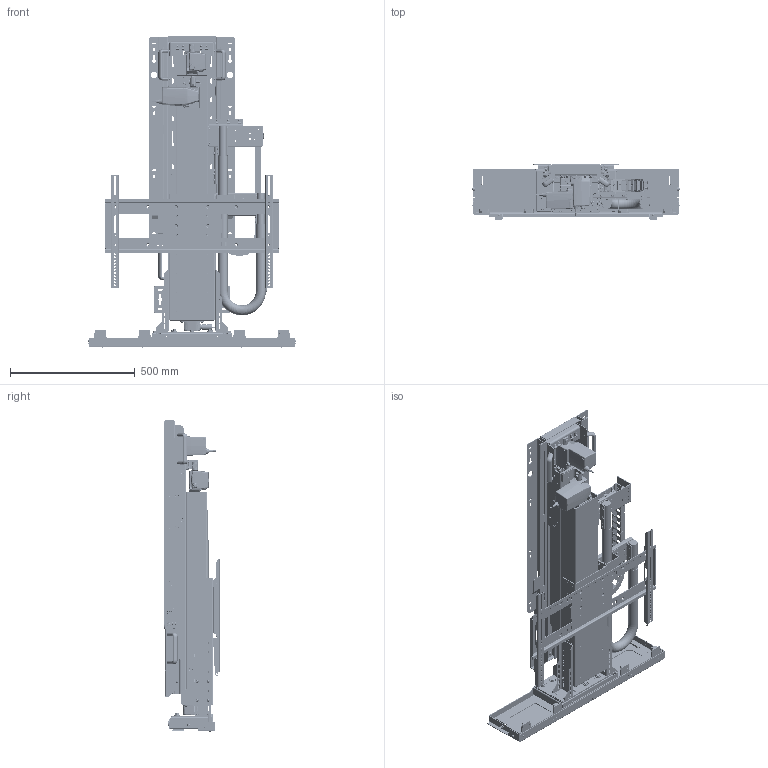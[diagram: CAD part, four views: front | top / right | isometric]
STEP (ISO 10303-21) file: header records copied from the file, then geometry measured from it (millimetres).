
FILE_DESCRIPTION(/* description */ ('STEP AP242','CAx-IF Rec.Pracs.---Representation and Presentation of Product Manufacturing Information (PMI)---4.0---2014-10-13','CAx-IF Rec.Pracs.---3D Tessellated Geometry---0.4---2014-09-14','2;1'),/* implementation_level */ '2;1');
FILE_NAME(/* name */ '64b01b081b8c9b31e18c7d0f',/* time_stamp */ '2023-07-13T15:41:07Z',/* author */ (''),/* organization */ (''),/* preprocessor_version */ 'ST-DEVELOPER v19.4',/* originating_system */ ' ',/* authorisation */ ' ');
FILE_SCHEMA (('AP242_MANAGED_MODEL_BASED_3D_ENGINEERING_MIM_LF { 1 0 10303 442 1 1 4 }'));
Products named in the file (204): L-77i Installation Assm; L-77i Installation Bracket Assm <1>; M6x12 Button Socket Cap; 18-8 Stainless Steel Spring Lock Washer MC PN97099A107; PEM Nut F-M4-2; Socket Button M4_4; Install Paddle Left; PEM CLS-M6-1; PEM Stud FHS-M6-15; M6 Nut Locking; Accuride_3732-28_O Lower; Accuride_3732-28_O Upper; Corrosion-Resistant Extension Springs with Hook Ends MC PN1942N154; Install Side Right; Install Side Left; Paddle Hinge Collar; M6 Fender Washer; Install Paddle Right; M6 x12 Flathead Bolt; Install Center; L-77i Main Assm <1>; Socket button head screw M4x0.7 x 6; Hex socket countersunk head screw M6x1 x 12; Socket button head screw M6x1 x 12; L-77i Snakeskin; OPU-NX-002 -- L77OPU Lid Support w/ PEMs <2>; ULS-NX-038 -- ULS HD LID SUPPORT SHORT; PEM CLS-M6-00  ; OPU-NX-002 -- L77OPU Lid Support w/ PEMs <1>; CMB2 Asm (1) <1>; CMB2; PEM Nut CLSS-M5-1; CMB5 Asm (3) <1>; CMB5; CMB4; HD-22FMMT (1) <1>; SCREWS-SS7-8_SCREWS-SS7-8_2; HD-22B_HD-22BFMB; HD-22xC_HD-22CMBT; Socket Button M4_8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
Assembly tree (844 placements, depth 6):
  L-77i Installation Assm
    L-77i Installation Bracket Assm <1>
      M6x12 Button Socket Cap  x2
      18-8 Stainless Steel Spring Lock Washer MC PN97099A107  x2
      PEM Nut F-M4-2  x16
      Socket Button M4_4  x16
      Install Paddle Left
      PEM CLS-M6-1  x2
      PEM Stud FHS-M6-15  x2
      M6 Nut Locking  x2
      Accuride_3732-28_O Lower  x2
      Accuride_3732-28_O Upper  x2
      Corrosion-Resistant Extension Springs with Hook Ends MC PN1942N154  x2
      Install Side Right
      Install Side Left
      Paddle Hinge Collar  x2
      M6 Fender Washer  x2
      Install Paddle Right
      M6 x12 Flathead Bolt  x2
      Install Center
    L-77i Main Assm <1>
      Socket button head screw M4x0.7 x 6  x8
      Hex socket countersunk head screw M6x1 x 12  x13
      Socket button head screw M6x1 x 12  x16
      L-77i Snakeskin
      OPU-NX-002 -- L77OPU Lid Support w/ PEMs <2>
        ULS-NX-038 -- ULS HD LID SUPPORT SHORT
        PEM CLS-M6-00    x2
      OPU-NX-002 -- L77OPU Lid Support w/ PEMs <1>
        PEM CLS-M6-00    x2
        ULS-NX-038 -- ULS HD LID SUPPORT SHORT
      CMB2 Asm (1) <1>
        PEM CLS-M6-1  x4
        PEM Nut F-M4-2
        CMB2
        PEM Nut CLSS-M5-1  x2
        CMB5 Asm (3) <1>
          CMB5
          PEM Nut F-M4-2  x4
        CMB4
      HD-22FMMT (1) <1>
        SCREWS-SS7-8_SCREWS-SS7-8_2  x4
        HD-22B_HD-22BFMB
        HD-22xC_HD-22CMBT
        Socket Button M4_8  x4
        DS1
        HD-22xC_HD-22CMBT
        HD-22xC_HD-22CMBT
        HD-22xC_HD-22CMBT
        Cable Gland 01
        Cable Gland 01
        HD-22B_HD-22BFMB
        GASKET-22_GASKET-22_08
        HD-22xC_HD-22CMBT
      First Stage Asm (1) <1>
        M6 x10 Flathead Bolt  x26
        PEM Nut F-M4-2  x3
        PEM CLS-M6-1  x12
        M6 Split Lock Washer  x12
        Flat-Head Quick-Release Pins MC PN90156A619  x2
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Bounding box: 834.88 x 221.28 x 1250.09 mm (x, y, z)
Volume: 18519423.8 mm3; surface area: 8054251.2 mm2
Topology: 802 solids, 807 shells, 26557 faces, 66835 edges, 43357 vertices
Faces by surface type: plane 15974, cylinder 6527, cone 1436, bspline 1397, torus 1089, sphere 134
Full cylindrical faces by diameter (mm): 0.2 x16, 0.512 x16, 0.55 x16, 2.088 x4, 2.261 x4, 2.5 x16, 2.642 x4, 2.8 x16, 2.845 x4, 3 x48, 3.175 x4, 3.277 x2, 3.3 x8, 3.505 x4, 3.658 x4, 3.683 x8, 3.912 x4, 4 x93, 4.2 x14, 4.242 x10, 4.3 x1, 4.369 x4, 4.37 x48, 4.496 x8, 4.572 x14, 4.75 x4, 4.775 x2, 4.9 x2, 4.917 x99, 5 x152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
Entity records: 353848 total; most frequent: CARTESIAN_POINT 107337, DIRECTION 49845, ORIENTED_EDGE 47756, EDGE_CURVE 23883, AXIS2_PLACEMENT_3D 17675, VERTEX_POINT 15976, LINE 14495, VECTOR 14495
